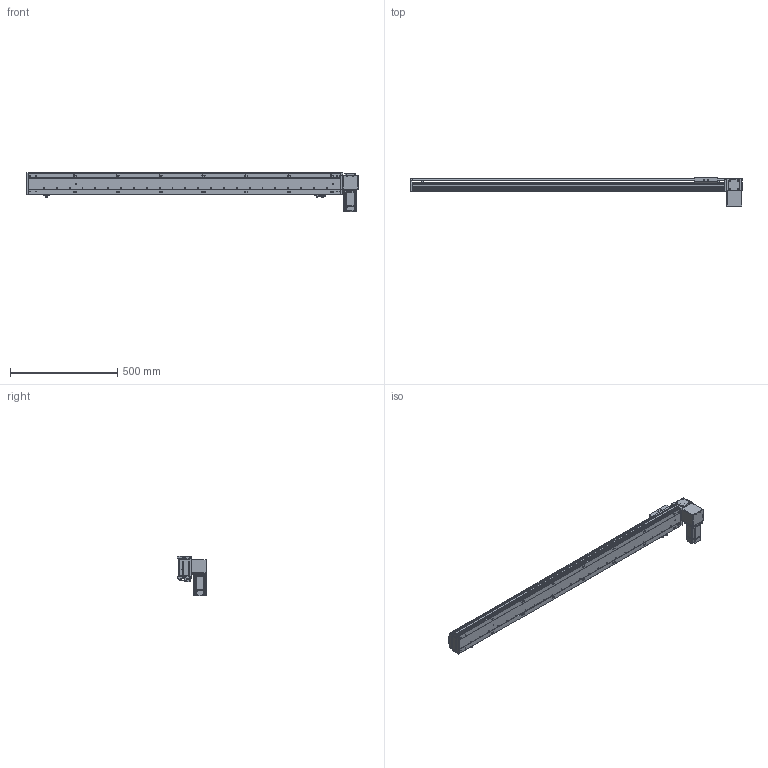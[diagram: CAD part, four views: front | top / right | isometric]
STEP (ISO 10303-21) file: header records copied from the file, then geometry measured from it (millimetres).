
FILE_DESCRIPTION (( 'STEP AP203' ), '1' );
FILE_NAME ('RY100-T-300-DL.SLDASM_1250.step', '2024-04-24T01:11:50', ( '盈信电脑' ), ( '东莞市道滘镇水果街19号' ), 'SwSTEP 2.0', 'SolidWorks 2016', '' );
FILE_SCHEMA (( 'CONFIG_CONTROL_DESIGN' ));
Length unit declared in the file: millimetre
Products named in the file (16): RY100綴裔啣; RY80-T肮祭謫狟殏俋欶; 滅袉蝶18-10; RY100-T肮祭謫臏賑輸; RY100-T-300-RK倰第菁釱_1250; RY100-T左右折电机安装板; RY100-T-300-DL.SLDASM_1250; RY100-T粣創揤踡裔; RY100俋离覜茼え; RY100-T翋肮祭謫裔啣2; RY100-T肮祭謫翋盓傅釱; RY100-T翋肮祭謫粣; RY100-T翋肮祭謫裔啣; 1; RY100-T-300-RK倰第奻裔_1250; 覜茼ん672
Assembly tree (18 placements, depth 2):
  RY100-T-300-DL.SLDASM_1250
    RY100-T-300-RK倰第菁釱_1250
    RY100-T-300-RK倰第奻裔_1250
    RY100-T肮祭謫臏賑輸
    RY100綴裔啣
    覜茼ん672  x3
    RY100俋离覜茼え
    RY100-T翋肮祭謫粣
    RY100-T肮祭謫翋盓傅釱
    滅袉蝶18-10  x2
    RY100-T翋肮祭謫裔啣
    1
    RY100-T左右折电机安装板
    RY100-T粣創揤踡裔
    RY100-T翋肮祭謫裔啣2
    RY80-T肮祭謫狟殏俋欶
Bounding box: 1550 x 135.5 x 182.5 mm (x, y, z)
Volume: 3043458.4 mm3; surface area: 1262224.9 mm2
Topology: 18 solids, 18 shells, 2235 faces, 6191 edges, 4019 vertices
Faces by surface type: plane 1211, cylinder 807, cone 139, bspline 78
Entity records: 71912 total; most frequent: CARTESIAN_POINT 17228, ORIENTED_EDGE 11214, DIRECTION 10727, EDGE_CURVE 5607, VERTEX_POINT 3687, LINE 3621, VECTOR 3621, AXIS2_PLACEMENT_3D 3553
